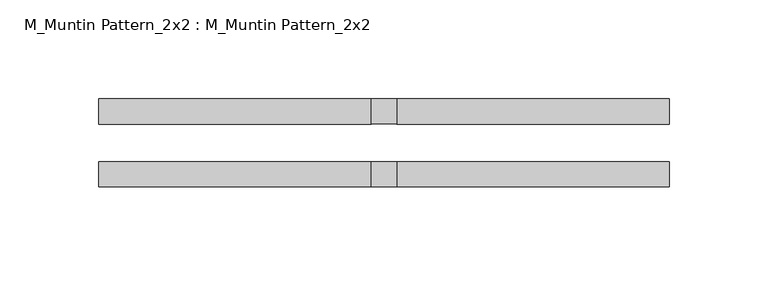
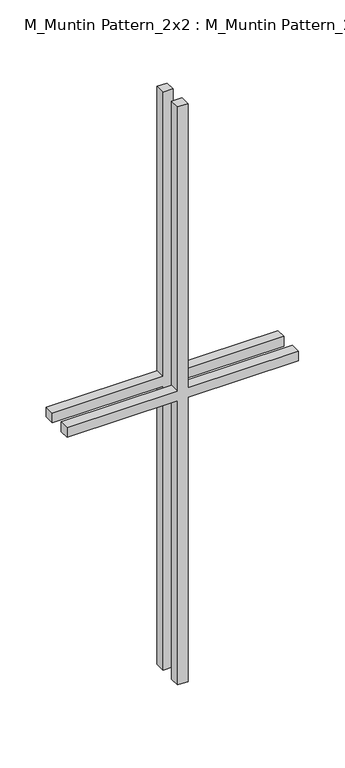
"""IFC4 building model written with IfcOpenShell, lengths in millimetres: proxy geometry, M_Muntin Pattern_2x2 : M_Muntin Pattern_2x2."""

import ifcopenshell
import ifcopenshell.guid

model = None  # the IFC model being written
_history = None  # IfcOwnerHistory: only IFC2X3 demands one
_inside = {}  # id of a spatial element -> (the spatial element, [elements in it])
_under = {}  # id of a project, library or spatial element -> (it, [spatial elements below it])
_declared = {}  # id of a project -> (the project, [libraries it declares])
_typed = {}  # id of a type object -> (the type object, [elements of that type])
_made_of = {}  # id of a material, layer set ... -> (it, [elements and type objects made of it])


def new_model(schema):
    """Start an empty IFC model of exactly this schema.

    Asked for "IFC4X3", IfcOpenShell would pick the latest addendum, in which some entities
    have other attributes; the version numbers below select the first issue.
    IFC2X3 requires an IfcOwnerHistory on every rooted entity: one is made here for all.
    """
    global model, _history
    if schema == "IFC4X3":
        model = ifcopenshell.file(schema_version=(4, 3, 0, 0))
    else:
        model = ifcopenshell.file(schema=schema)
    _inside.clear()
    _under.clear()
    _declared.clear()
    _typed.clear()
    _made_of.clear()
    _history = None
    if model.schema == "IFC2X3":
        org = make("IfcOrganization", Name="unknown")
        user = make(
            "IfcPersonAndOrganization",
            ThePerson=make("IfcPerson", FamilyName="unknown"),
            TheOrganization=org,
        )
        app = make(
            "IfcApplication",
            ApplicationDeveloper=org,
            Version="unknown",
            ApplicationFullName="unknown",
            ApplicationIdentifier="unknown",
        )
        _history = make(
            "IfcOwnerHistory",
            OwningUser=user,
            OwningApplication=app,
            ChangeAction="ADDED",
            CreationDate=0,
        )
    return model


def make(cls, **values):
    """One entity of the class cls with the attributes given. An attribute that is None is left unset."""
    return model.create_entity(
        cls, **{name: value for name, value in values.items() if value is not None}
    )


def rooted(cls, **values):
    """An entity with a GlobalId (a new one), such as an element, a storey or a relation."""
    return make(cls, GlobalId=ifcopenshell.guid.new(), OwnerHistory=_history, **values)


def si_unit(unit_type, name, prefix=None):
    """IfcSIUnit, for example si_unit("LENGTHUNIT", "METRE", prefix="MILLI")."""
    return make("IfcSIUnit", UnitType=unit_type, Prefix=prefix, Name=name)


def assignment(units):
    """IfcUnitAssignment: the units of a project."""
    return None if units is None else make("IfcUnitAssignment", Units=units)


def point(xyz):
    """IfcCartesianPoint."""
    return None if xyz is None else make("IfcCartesianPoint", Coordinates=xyz)


def direction(xyz):
    """IfcDirection."""
    return None if xyz is None else make("IfcDirection", DirectionRatios=xyz)


def frame(location, z_axis=None, x_axis=None):
    """IfcAxis2Placement3D, a coordinate frame: its origin and axes. An axis left out is left unset."""
    return make(
        "IfcAxis2Placement3D",
        Location=point(location),
        Axis=direction(z_axis),
        RefDirection=direction(x_axis),
    )


def origin():
    """The frame at (0, 0, 0) with its axes left unset."""
    return frame((0.0, 0.0, 0.0))


def place(relative_to, where):
    """IfcLocalPlacement: puts the frame where relative to a parent placement (None: the world)."""
    return make(
        "IfcLocalPlacement", PlacementRelTo=relative_to, RelativePlacement=where
    )


def context(
    kind, dimensions, precision=None, world=None, true_north=None, identifier=None
):
    """IfcGeometricRepresentationContext, for example the 3D "Model" context."""
    return make(
        "IfcGeometricRepresentationContext",
        ContextIdentifier=identifier,
        ContextType=kind,
        CoordinateSpaceDimension=dimensions,
        Precision=precision,
        WorldCoordinateSystem=world,
        TrueNorth=true_north,
    )


def project(units=None, contexts=None):
    """IfcProject with its units and contexts."""
    return rooted(
        "IfcProject",
        Name="project",
        RepresentationContexts=contexts,
        UnitsInContext=assignment(units),
    )


def spatial(cls, under=None, at=None, **own):
    """A site, building, storey or space (cls), placed at a placement, below another one or the project."""
    s = rooted(cls, ObjectPlacement=at, **own)
    if under is not None:
        _under.setdefault(under.id(), (under, []))[1].append(s)
    return s


def polyline(points):
    """IfcPolyline through the points."""
    return make("IfcPolyline", Points=[point(p) for p in points])


def outline(outer, holes=None, kind="AREA"):
    """IfcArbitraryClosedProfileDef: a profile drawn as a closed curve; with holes, ...WithVoids."""
    if holes is None:
        return make("IfcArbitraryClosedProfileDef", ProfileType=kind, OuterCurve=outer)
    return make(
        "IfcArbitraryProfileDefWithVoids",
        ProfileType=kind,
        OuterCurve=outer,
        InnerCurves=holes,
    )


def extrude(swept, where, along, depth):
    """IfcExtrudedAreaSolid: the profile swept, set in the frame where, extruded along a direction by depth."""
    return make(
        "IfcExtrudedAreaSolid",
        SweptArea=swept,
        Position=where,
        ExtrudedDirection=direction(along),
        Depth=depth,
    )


def shape(context_of_items, identifier, shape_type, items):
    """IfcShapeRepresentation: the items that make up one representation, for example the "Body"."""
    return make(
        "IfcShapeRepresentation",
        ContextOfItems=context_of_items,
        RepresentationIdentifier=identifier,
        RepresentationType=shape_type,
        Items=items,
    )


def source(mapping_origin, context_of_items, identifier, shape_type, items):
    """IfcRepresentationMap: a shape defined once, which mapped items show again and again."""
    return make(
        "IfcRepresentationMap",
        MappingOrigin=mapping_origin,
        MappedRepresentation=shape(context_of_items, identifier, shape_type, items),
    )


def transform(
    local_origin,
    x_axis=None,
    y_axis=None,
    z_axis=None,
    scale=None,
    scale2=None,
    scale3=None,
    uniform=True,
):
    """IfcCartesianTransformationOperator3D, or its non-uniform kind. x_axis, y_axis, z_axis: its Axis1, 2, 3."""
    if uniform:
        return make(
            "IfcCartesianTransformationOperator3D",
            Axis1=direction(x_axis),
            Axis2=direction(y_axis),
            LocalOrigin=point(local_origin),
            Scale=scale,
            Axis3=direction(z_axis),
        )
    return make(
        "IfcCartesianTransformationOperator3DnonUniform",
        Axis1=direction(x_axis),
        Axis2=direction(y_axis),
        LocalOrigin=point(local_origin),
        Scale=scale,
        Axis3=direction(z_axis),
        Scale2=scale2,
        Scale3=scale3,
    )


def mapped(mapping_source, mapping_target):
    """IfcMappedItem: shows the shape of a source again, moved by a transform."""
    return make(
        "IfcMappedItem", MappingSource=mapping_source, MappingTarget=mapping_target
    )


def made_of(thing, what):
    """Note that an element or type object is made of a material, layer set ...; save() writes the relation."""
    if what is not None:
        _made_of.setdefault(what.id(), (what, []))[1].append(thing)
    return thing


def element(
    cls,
    number,
    at=None,
    inside=None,
    cuts=None,
    type_object=None,
    material=None,
    context=None,
    identifier="Body",
    shape_type=None,
    held_by="IfcProductDefinitionShape",
    body=None,
    shapes=None,
    **own,
):
    """One element of the class cls, such as IfcWall. Its Tag is "e" and its number.

    at: its placement. inside: the storey or other place that contains it. cuts: it is an
    opening in that element (IfcRelVoidsElement). A single representation is given by context,
    identifier, shape_type and body (its items); several are given by shapes. held_by: the class
    of the entity that holds the representations. save() writes the other relations.
    """
    e = rooted(cls, Tag="e%d" % number, ObjectPlacement=at, **own)
    if body is not None:
        shapes = [shape(context, identifier, shape_type, body)]
    if shapes is not None:
        e.Representation = make(held_by, Representations=shapes)
    if inside is not None:
        _inside.setdefault(inside.id(), (inside, []))[1].append(e)
    if cuts is not None:
        rooted(
            "IfcRelVoidsElement", RelatingBuildingElement=cuts, RelatedOpeningElement=e
        )
    if type_object is not None:
        _typed.setdefault(type_object.id(), (type_object, []))[1].append(e)
    return made_of(e, material)


def aggregate(whole, parts):
    """IfcRelAggregates: a whole, such as a stair, and the parts it consists of."""
    return rooted("IfcRelAggregates", RelatingObject=whole, RelatedObjects=parts)


def save(model, path):
    """Write the relations noted so far, then the file.

    IfcRelAggregates (storeys below a building ...), IfcRelContainedInSpatialStructure (elements
    in a storey), IfcRelDefinesByType, IfcRelAssociatesMaterial and IfcRelDeclares: one each for
    every whole, place, type object, material and project.
    """
    for whole, parts in _under.values():
        aggregate(whole, parts)
    for where, things in _inside.values():
        rooted(
            "IfcRelContainedInSpatialStructure",
            RelatedElements=things,
            RelatingStructure=where,
        )
    for kind, things in _typed.values():
        rooted("IfcRelDefinesByType", RelatedObjects=things, RelatingType=kind)
    for what, things in _made_of.values():
        rooted("IfcRelAssociatesMaterial", RelatedObjects=things, RelatingMaterial=what)
    for by, libraries in _declared.values():
        rooted("IfcRelDeclares", RelatingContext=by, RelatedDefinitions=libraries)
    model.write(path)


def m_muntin_pattern_2x2_m_muntin_pattern_2x2_62480ac4(model_context):
    return source(origin(), model_context, "Body", "SweptSolid", [
        extrude(outline(polyline([(386.5, -6.35), (386.5, -144.2375), (373.8, -144.2375), (373.8, -6.35), (0.0, -6.35), (0.0, 6.35), (373.8, 6.35), (373.8, 144.2375), (386.5, 144.2375), (386.5, 6.35), (760.3, 6.35), (760.3, -6.35), (386.5, -6.35)])), frame((0.0, 9.525, 0.0), z_axis=(0.0, 1.0, 0.0), x_axis=(0.0, 0.0, 1.0)), (0.0, 0.0, 1.0), 12.7),
        extrude(outline(polyline([(386.5, -6.35), (386.5, -144.2375), (373.8, -144.2375), (373.8, -6.35), (0.0, -6.35), (0.0, 6.35), (373.8, 6.35), (373.8, 144.2375), (386.5, 144.2375), (386.5, 6.35), (760.3, 6.35), (760.3, -6.35), (386.5, -6.35)])), frame((0.0, -22.225, 0.0), z_axis=(0.0, 1.0, 0.0), x_axis=(0.0, 0.0, 1.0)), (0.0, 0.0, 1.0), 12.7),
    ])


if __name__ == "__main__":
    model = new_model("IFC4")
    model_context = context("Model", 3, world=origin())
    ifc_project = project(units=[si_unit("LENGTHUNIT", "METRE", prefix="MILLI")], contexts=[model_context])
    site = spatial("IfcSite", under=ifc_project)
    building = spatial("IfcBuilding", under=site)
    placement = place(None, origin())
    m_muntin_pattern_2x2_m_muntin_pattern_2x2_shape = m_muntin_pattern_2x2_m_muntin_pattern_2x2_62480ac4(model_context)
    element("IfcBuildingElementProxy", 1, Name="M_Muntin Pattern_2x2 : M_Muntin Pattern_2x2", ObjectType="M_Muntin Pattern_2x2 : M_Muntin Pattern_2x2", at=placement, inside=building, context=model_context, shape_type="MappedRepresentation", body=[
        mapped(m_muntin_pattern_2x2_m_muntin_pattern_2x2_shape, transform((0.0, 0.0, 0.0), x_axis=(1.0, 0.0, 0.0), y_axis=(0.0, 1.0, 0.0), z_axis=(0.0, 0.0, 1.0))),
    ])
    save(model, "model.ifc")
